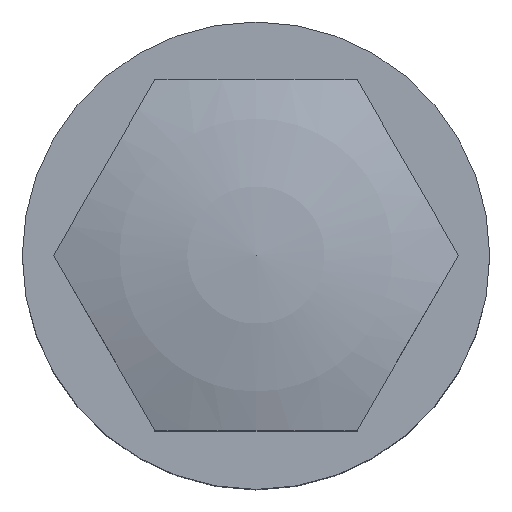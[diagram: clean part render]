
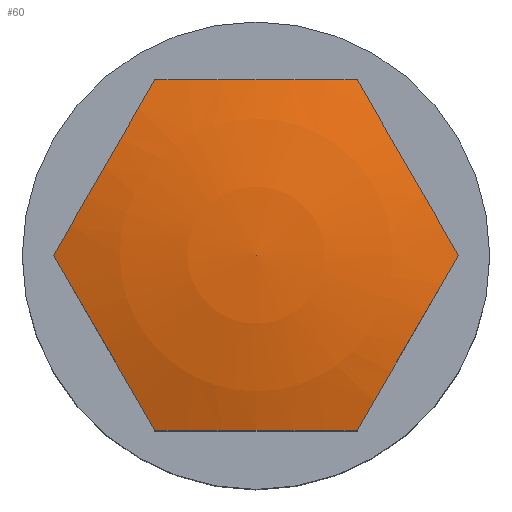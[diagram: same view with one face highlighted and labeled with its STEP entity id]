
A CAD part, top view. The second image highlights one B-rep face of the part: STEP entity #60.
In plain terms, the highlighted spherical face has radius 26 mm.
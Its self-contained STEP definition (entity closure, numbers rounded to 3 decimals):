
#42=SPHERICAL_SURFACE('',#213,26.);
#43=VERTEX_LOOP('',#150);
#49=FACE_BOUND('',#43,.T.);
#50=FACE_BOUND('',#87,.T.);
#60=ADVANCED_FACE('',(#49,#50),#42,.T.);
#87=EDGE_LOOP('',(#130,#131,#132,#133,#134,#135));
#88=CIRCLE('',#196,24.895);
#89=CIRCLE('',#198,24.895);
#90=CIRCLE('',#200,24.895);
#91=CIRCLE('',#202,24.895);
#92=CIRCLE('',#204,24.895);
#93=CIRCLE('',#206,24.895);
#130=ORIENTED_EDGE('',*,*,#156,.F.);
#131=ORIENTED_EDGE('',*,*,#159,.F.);
#132=ORIENTED_EDGE('',*,*,#162,.F.);
#133=ORIENTED_EDGE('',*,*,#165,.F.);
#134=ORIENTED_EDGE('',*,*,#167,.F.);
#135=ORIENTED_EDGE('',*,*,#152,.F.);
#137=VERTEX_POINT('',#267);
#138=VERTEX_POINT('',#269);
#141=VERTEX_POINT('',#276);
#143=VERTEX_POINT('',#282);
#145=VERTEX_POINT('',#288);
#147=VERTEX_POINT('',#294);
#150=VERTEX_POINT('',#308);
#152=EDGE_CURVE('',#137,#138,#88,.T.);
#156=EDGE_CURVE('',#141,#137,#89,.T.);
#159=EDGE_CURVE('',#143,#141,#90,.T.);
#162=EDGE_CURVE('',#145,#143,#91,.T.);
#165=EDGE_CURVE('',#147,#145,#92,.T.);
#167=EDGE_CURVE('',#138,#147,#93,.T.);
#196=AXIS2_PLACEMENT_3D('',#268,#217,#218);
#198=AXIS2_PLACEMENT_3D('',#277,#224,#225);
#200=AXIS2_PLACEMENT_3D('',#283,#230,#231);
#202=AXIS2_PLACEMENT_3D('',#289,#236,#237);
#204=AXIS2_PLACEMENT_3D('',#295,#242,#243);
#206=AXIS2_PLACEMENT_3D('',#298,#247,#248);
#213=AXIS2_PLACEMENT_3D('',#309,#262,#263);
#217=DIRECTION('',(-0.866,-0.5,0.));
#218=DIRECTION('',(0.5,-0.866,0.));
#224=DIRECTION('',(0.,-1.,0.));
#225=DIRECTION('',(1.,0.,0.));
#230=DIRECTION('',(0.866,-0.5,0.));
#231=DIRECTION('',(0.5,0.866,0.));
#236=DIRECTION('',(0.866,0.5,0.));
#237=DIRECTION('',(-0.5,0.866,0.));
#242=DIRECTION('',(0.,1.,0.));
#243=DIRECTION('',(-1.,0.,0.));
#247=DIRECTION('',(-0.866,0.5,0.));
#248=DIRECTION('',(-0.5,-0.866,0.));
#262=DIRECTION('',(0.,0.,-1.));
#263=DIRECTION('',(-1.,0.,0.));
#267=CARTESIAN_POINT('',(-4.33,-7.5,-1.485));
#268=CARTESIAN_POINT('',(-6.495,-3.75,-26.));
#269=CARTESIAN_POINT('',(-8.66,0.,-1.485));
#276=CARTESIAN_POINT('',(4.33,-7.5,-1.485));
#277=CARTESIAN_POINT('',(0.,-7.5,-26.));
#282=CARTESIAN_POINT('',(8.66,0.,-1.485));
#283=CARTESIAN_POINT('',(6.495,-3.75,-26.));
#288=CARTESIAN_POINT('',(4.33,7.5,-1.485));
#289=CARTESIAN_POINT('',(6.495,3.75,-26.));
#294=CARTESIAN_POINT('',(-4.33,7.5,-1.485));
#295=CARTESIAN_POINT('',(0.,7.5,-26.));
#298=CARTESIAN_POINT('',(-6.495,3.75,-26.));
#308=CARTESIAN_POINT('',(0.,0.,0.));
#309=CARTESIAN_POINT('',(0.,0.,-26.));
